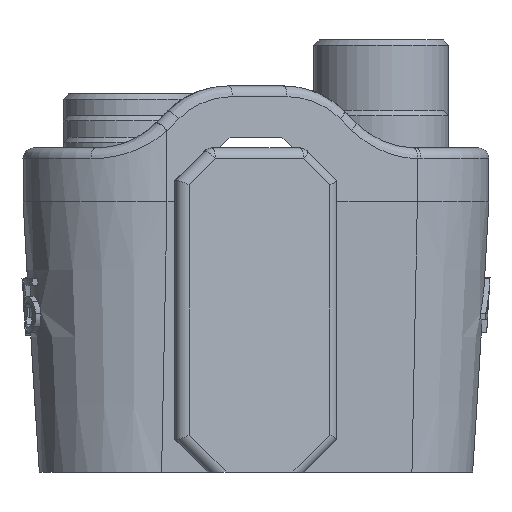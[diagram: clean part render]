
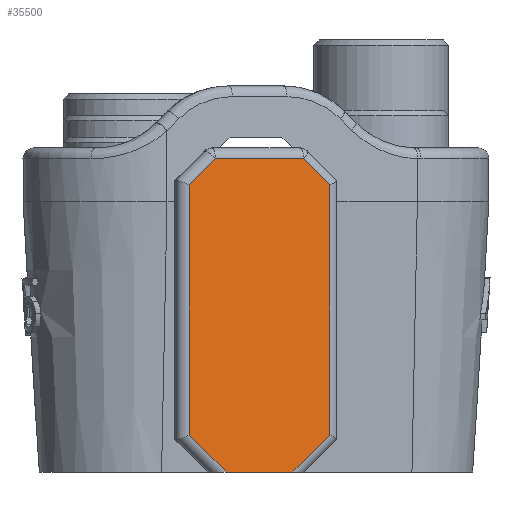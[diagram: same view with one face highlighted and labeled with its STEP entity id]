
A CAD part, left-side view. The second image highlights one B-rep face of the part: STEP entity #35500.
In plain terms, the highlighted planar face has unit normal (-0.942, -0.335, 0).
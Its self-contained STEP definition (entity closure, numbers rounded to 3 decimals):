
#3445=PLANE('',#37874);
#4451=FACE_OUTER_BOUND('',#6665,.T.);
#6665=EDGE_LOOP('',(#24292,#24293,#24294,#24295,#24296,#24297,#24298,#24299));
#8938=LINE('',#46659,#11869);
#8956=LINE('',#46740,#11887);
#8957=LINE('',#46742,#11888);
#8958=LINE('',#46744,#11889);
#8959=LINE('',#46746,#11890);
#8960=LINE('',#46748,#11891);
#8961=LINE('',#46750,#11892);
#8962=LINE('',#46751,#11893);
#11869=VECTOR('',#39895,10.);
#11887=VECTOR('',#39993,10.);
#11888=VECTOR('',#39994,10.);
#11889=VECTOR('',#39995,10.);
#11890=VECTOR('',#39996,10.);
#11891=VECTOR('',#39997,10.);
#11892=VECTOR('',#39998,10.);
#11893=VECTOR('',#39999,10.);
#15169=VERTEX_POINT('',#46656);
#15170=VERTEX_POINT('',#46658);
#15193=VERTEX_POINT('',#46739);
#15194=VERTEX_POINT('',#46741);
#15195=VERTEX_POINT('',#46743);
#15196=VERTEX_POINT('',#46745);
#15197=VERTEX_POINT('',#46747);
#15198=VERTEX_POINT('',#46749);
#18588=EDGE_CURVE('',#15169,#15170,#8938,.T.);
#18629=EDGE_CURVE('',#15193,#15169,#8956,.T.);
#18630=EDGE_CURVE('',#15194,#15193,#8957,.T.);
#18631=EDGE_CURVE('',#15195,#15194,#8958,.T.);
#18632=EDGE_CURVE('',#15196,#15195,#8959,.T.);
#18633=EDGE_CURVE('',#15197,#15196,#8960,.T.);
#18634=EDGE_CURVE('',#15198,#15197,#8961,.T.);
#18635=EDGE_CURVE('',#15170,#15198,#8962,.T.);
#24292=ORIENTED_EDGE('',*,*,#18588,.F.);
#24293=ORIENTED_EDGE('',*,*,#18629,.F.);
#24294=ORIENTED_EDGE('',*,*,#18630,.F.);
#24295=ORIENTED_EDGE('',*,*,#18631,.F.);
#24296=ORIENTED_EDGE('',*,*,#18632,.F.);
#24297=ORIENTED_EDGE('',*,*,#18633,.F.);
#24298=ORIENTED_EDGE('',*,*,#18634,.F.);
#24299=ORIENTED_EDGE('',*,*,#18635,.F.);
#35500=ADVANCED_FACE('',(#4451),#3445,.T.);
#37874=AXIS2_PLACEMENT_3D('',#46738,#39991,#39992);
#39895=DIRECTION('',(0.335,-0.942,0.));
#39991=DIRECTION('center_axis',(-0.942,-0.335,0.));
#39992=DIRECTION('ref_axis',(-0.335,0.942,0.));
#39993=DIRECTION('',(0.244,-0.686,0.686));
#39994=DIRECTION('',(0.,0.,1.));
#39995=DIRECTION('',(-0.244,0.686,0.686));
#39996=DIRECTION('',(-0.335,0.942,0.));
#39997=DIRECTION('',(-0.244,0.686,-0.686));
#39998=DIRECTION('',(0.,0.,-1.));
#39999=DIRECTION('',(0.244,-0.686,-0.686));
#46656=CARTESIAN_POINT('',(55.996,-7.837,16.5));
#46658=CARTESIAN_POINT('',(58.904,-16.009,16.5));
#46659=CARTESIAN_POINT('',(66.648,-37.767,16.5));
#46738=CARTESIAN_POINT('Origin',(60.,-19.088,17.5));
#46739=CARTESIAN_POINT('',(55.137,-5.423,14.086));
#46740=CARTESIAN_POINT('',(58.891,-15.973,24.635));
#46741=CARTESIAN_POINT('',(55.137,-5.423,-9.086));
#46742=CARTESIAN_POINT('',(55.137,-5.423,17.5));
#46743=CARTESIAN_POINT('',(56.352,-8.837,-12.5));
#46744=CARTESIAN_POINT('',(56.381,-8.919,-12.582));
#46745=CARTESIAN_POINT('',(58.548,-15.009,-12.5));
#46746=CARTESIAN_POINT('',(54.661,-4.088,-12.5));
#46747=CARTESIAN_POINT('',(59.764,-18.423,-9.086));
#46748=CARTESIAN_POINT('',(63.817,-29.811,2.302));
#46749=CARTESIAN_POINT('',(59.764,-18.423,14.086));
#46750=CARTESIAN_POINT('',(59.764,-18.423,17.5));
#46751=CARTESIAN_POINT('',(61.306,-22.758,9.751));
